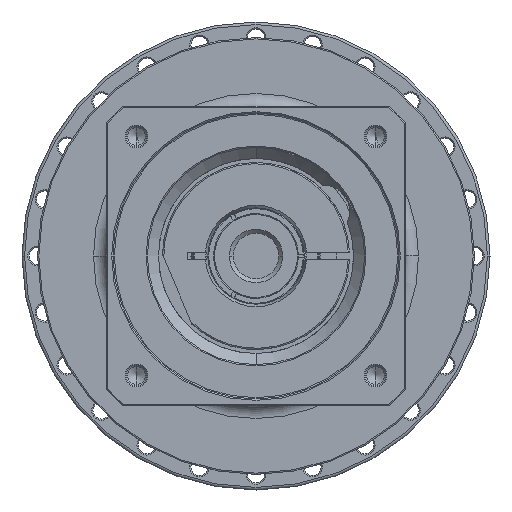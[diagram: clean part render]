
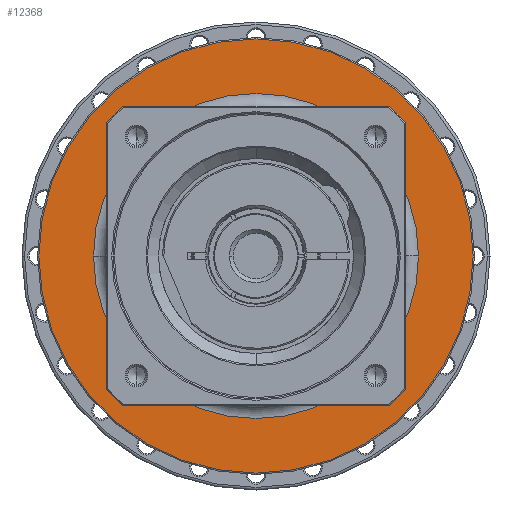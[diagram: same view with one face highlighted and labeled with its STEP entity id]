
A CAD part, left-side view. The second image highlights one B-rep face of the part: STEP entity #12368.
In plain terms, the highlighted planar face has unit normal (-1, 0, 0) as drawn and (1, 0, 0) by its records, which use the part's own axes.
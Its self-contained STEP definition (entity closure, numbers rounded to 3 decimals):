
#11847=CARTESIAN_POINT('',(-21.,0.,0.));
#11848=DIRECTION('',(-1.,0.,0.));
#11849=DIRECTION('',(0.,-1.,0.));
#11850=AXIS2_PLACEMENT_3D('',#11847,#11848,#11849);
#11852=CARTESIAN_POINT('',(-21.,0.,0.));
#11853=DIRECTION('',(-1.,0.,0.));
#11854=DIRECTION('',(0.,1.,0.));
#11855=AXIS2_PLACEMENT_3D('',#11852,#11853,#11854);
#11857=CARTESIAN_POINT('',(-21.,0.,0.));
#11858=DIRECTION('',(-1.,0.,0.));
#11859=DIRECTION('',(0.,-1.,0.));
#11860=AXIS2_PLACEMENT_3D('',#11857,#11858,#11859);
#11862=CARTESIAN_POINT('',(-21.,0.,0.));
#11863=DIRECTION('',(-1.,0.,0.));
#11864=DIRECTION('',(0.,1.,0.));
#11865=AXIS2_PLACEMENT_3D('',#11862,#11863,#11864);
#11931=CARTESIAN_POINT('',(-21.,-83.5,0.));
#11932=CARTESIAN_POINT('',(-21.,83.5,0.));
#11933=VERTEX_POINT('',#11931);
#11934=VERTEX_POINT('',#11932);
#11955=CARTESIAN_POINT('',(-21.,-62.5,0.));
#11956=CARTESIAN_POINT('',(-21.,62.5,0.));
#11957=VERTEX_POINT('',#11955);
#11958=VERTEX_POINT('',#11956);
#12353=CARTESIAN_POINT('',(-21.,0.,0.));
#12354=DIRECTION('',(1.,0.,0.));
#12355=DIRECTION('',(0.,-1.,0.));
#12356=AXIS2_PLACEMENT_3D('',#12353,#12354,#12355);
#12357=PLANE('',#12356);
#12358=ORIENTED_EDGE('',*,*,#12294,.T.);
#12359=ORIENTED_EDGE('',*,*,#12309,.T.);
#12360=EDGE_LOOP('',(#12358,#12359));
#12361=FACE_OUTER_BOUND('',#12360,.F.);
#12363=ORIENTED_EDGE('',*,*,#12362,.F.);
#12365=ORIENTED_EDGE('',*,*,#12364,.F.);
#12366=EDGE_LOOP('',(#12363,#12365));
#12367=FACE_BOUND('',#12366,.F.);
#12368=ADVANCED_FACE('',(#12361,#12367),#12357,.T.);
#11851=CIRCLE('',#11850,62.5);
#11856=CIRCLE('',#11855,62.5);
#11861=CIRCLE('',#11860,83.5);
#11866=CIRCLE('',#11865,83.5);
#12294=EDGE_CURVE('',#11933,#11934,#11861,.T.);
#12309=EDGE_CURVE('',#11934,#11933,#11866,.T.);
#12362=EDGE_CURVE('',#11957,#11958,#11851,.T.);
#12364=EDGE_CURVE('',#11958,#11957,#11856,.T.);
